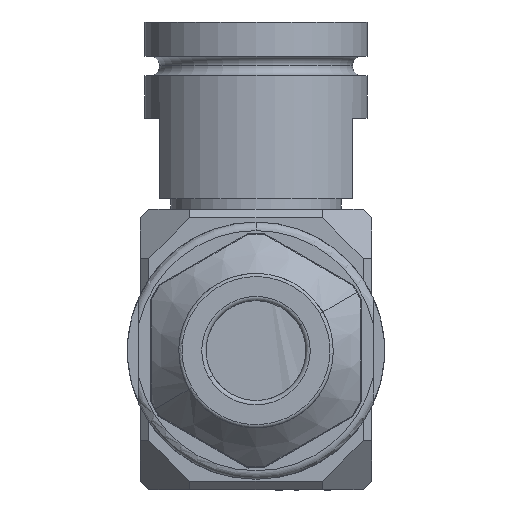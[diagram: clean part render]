
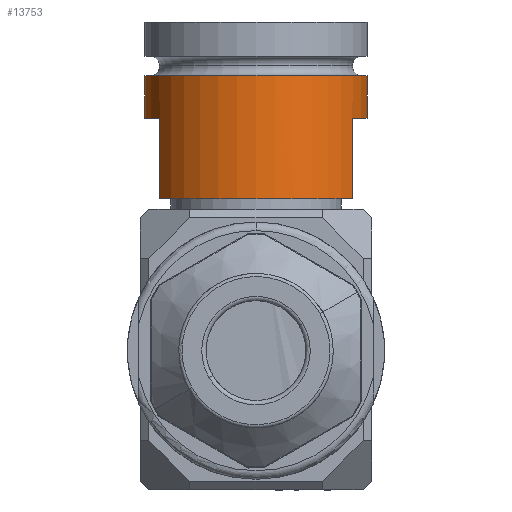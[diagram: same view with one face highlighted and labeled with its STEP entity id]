
A CAD part, front view. The second image highlights one B-rep face of the part: STEP entity #13753.
In plain terms, the highlighted cylindrical face has radius 13.208 mm (diameter 26.416 mm), a partial arc.
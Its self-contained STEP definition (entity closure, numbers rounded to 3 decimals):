
#1334 = LINE ( 'NONE', #20943, #33519 ) ;
#3214 = CIRCLE ( 'NONE', #57145, 13.208 ) ;
#4218 = VERTEX_POINT ( 'NONE', #7624 ) ;
#6387 = CARTESIAN_POINT ( 'NONE',  ( 13.208, 0., -2.972 ) ) ;
#6789 = AXIS2_PLACEMENT_3D ( 'NONE', #39555, #30311, #53338 ) ;
#6817 = DIRECTION ( 'NONE',  ( 0., 0., -1. ) ) ;
#7523 = DIRECTION ( 'NONE',  ( 0., 0., -1. ) ) ;
#7624 = CARTESIAN_POINT ( 'NONE',  ( 11.43, -6.619, -2.972 ) ) ;
#8069 = DIRECTION ( 'NONE',  ( 0., 0., -1. ) ) ;
#8147 = CARTESIAN_POINT ( 'NONE',  ( 0., 0., -2.972 ) ) ;
#8851 = VECTOR ( 'NONE', #8948, 1000. ) ;
#8948 = DIRECTION ( 'NONE',  ( 0., 0., -1. ) ) ;
#9453 = CARTESIAN_POINT ( 'NONE',  ( -13.208, 0., -2.972 ) ) ;
#10060 = DIRECTION ( 'NONE',  ( 0., 0., -1. ) ) ;
#10782 = ORIENTED_EDGE ( 'NONE', *, *, #49624, .T. ) ;
#11980 = EDGE_CURVE ( 'NONE', #52018, #29933, #39786, .T. ) ;
#13753 = ADVANCED_FACE ( 'NONE', ( #44091 ), #45006, .T. ) ;
#15009 = AXIS2_PLACEMENT_3D ( 'NONE', #21645, #7523, #26269 ) ;
#15273 = VERTEX_POINT ( 'NONE', #9453 ) ;
#15754 = ORIENTED_EDGE ( 'NONE', *, *, #25848, .F. ) ;
#16548 = CARTESIAN_POINT ( 'NONE',  ( 13.208, 0., 2.108 ) ) ;
#20943 = CARTESIAN_POINT ( 'NONE',  ( -13.208, 0., 8.458 ) ) ;
#21645 = CARTESIAN_POINT ( 'NONE',  ( 0., 0., 8.458 ) ) ;
#22957 = EDGE_CURVE ( 'NONE', #59872, #4218, #3214, .T. ) ;
#23966 = LINE ( 'NONE', #45842, #60027 ) ;
#24906 = CARTESIAN_POINT ( 'NONE',  ( 11.43, -6.619, -12.497 ) ) ;
#25067 = AXIS2_PLACEMENT_3D ( 'NONE', #40588, #36579, #58991 ) ;
#25380 = ORIENTED_EDGE ( 'NONE', *, *, #11980, .F. ) ;
#25848 = EDGE_CURVE ( 'NONE', #58467, #59872, #33711, .T. ) ;
#26269 = DIRECTION ( 'NONE',  ( 1., 0., 0. ) ) ;
#26633 = ORIENTED_EDGE ( 'NONE', *, *, #54115, .F. ) ;
#29353 = CIRCLE ( 'NONE', #6789, 13.208 ) ;
#29589 = ORIENTED_EDGE ( 'NONE', *, *, #35021, .T. ) ;
#29933 = VERTEX_POINT ( 'NONE', #47785 ) ;
#30311 = DIRECTION ( 'NONE',  ( 0., 0., -1. ) ) ;
#31186 = CARTESIAN_POINT ( 'NONE',  ( -13.208, 0., 2.108 ) ) ;
#31670 = CARTESIAN_POINT ( 'NONE',  ( -11.43, -6.619, -2.972 ) ) ;
#31783 = DIRECTION ( 'NONE',  ( -1., 0., 0. ) ) ;
#32490 = CARTESIAN_POINT ( 'NONE',  ( 13.208, 0., 8.458 ) ) ;
#32519 = CIRCLE ( 'NONE', #33524, 13.208 ) ;
#33519 = VECTOR ( 'NONE', #6817, 1000. ) ;
#33524 = AXIS2_PLACEMENT_3D ( 'NONE', #8147, #50802, #31783 ) ;
#33711 = LINE ( 'NONE', #32490, #45451 ) ;
#34142 = VERTEX_POINT ( 'NONE', #31186 ) ;
#35021 = EDGE_CURVE ( 'NONE', #34142, #15273, #1334, .T. ) ;
#35703 = DIRECTION ( 'NONE',  ( 1., 0., 0. ) ) ;
#36579 = DIRECTION ( 'NONE',  ( 0., 0., -1. ) ) ;
#37002 = EDGE_CURVE ( 'NONE', #4218, #52018, #23966, .T. ) ;
#37575 = EDGE_LOOP ( 'NONE', ( #53827, #29589, #26633, #10782, #25380, #51855, #37600, #15754 ) ) ;
#37600 = ORIENTED_EDGE ( 'NONE', *, *, #22957, .F. ) ;
#39413 = DIRECTION ( 'NONE',  ( 0., 0., -1. ) ) ;
#39555 = CARTESIAN_POINT ( 'NONE',  ( 0., 0., 2.108 ) ) ;
#39786 = CIRCLE ( 'NONE', #25067, 13.208 ) ;
#40588 = CARTESIAN_POINT ( 'NONE',  ( 0., 0., -12.497 ) ) ;
#42190 = VERTEX_POINT ( 'NONE', #58488 ) ;
#42482 = EDGE_CURVE ( 'NONE', #58467, #34142, #29353, .T. ) ;
#44091 = FACE_OUTER_BOUND ( 'NONE', #37575, .T. ) ;
#45006 = CYLINDRICAL_SURFACE ( 'NONE', #15009, 13.208 ) ;
#45451 = VECTOR ( 'NONE', #10060, 1000. ) ;
#45842 = CARTESIAN_POINT ( 'NONE',  ( 11.43, -6.619, -2.972 ) ) ;
#47785 = CARTESIAN_POINT ( 'NONE',  ( -11.43, -6.619, -12.497 ) ) ;
#49624 = EDGE_CURVE ( 'NONE', #42190, #29933, #56216, .T. ) ;
#50802 = DIRECTION ( 'NONE',  ( 0., 0., -1. ) ) ;
#51855 = ORIENTED_EDGE ( 'NONE', *, *, #37002, .F. ) ;
#52018 = VERTEX_POINT ( 'NONE', #24906 ) ;
#53338 = DIRECTION ( 'NONE',  ( 1., 0., 0. ) ) ;
#53827 = ORIENTED_EDGE ( 'NONE', *, *, #42482, .T. ) ;
#54115 = EDGE_CURVE ( 'NONE', #42190, #15273, #32519, .T. ) ;
#56216 = LINE ( 'NONE', #31670, #8851 ) ;
#57145 = AXIS2_PLACEMENT_3D ( 'NONE', #58443, #39413, #35703 ) ;
#58443 = CARTESIAN_POINT ( 'NONE',  ( 0., 0., -2.972 ) ) ;
#58467 = VERTEX_POINT ( 'NONE', #16548 ) ;
#58488 = CARTESIAN_POINT ( 'NONE',  ( -11.43, -6.619, -2.972 ) ) ;
#58991 = DIRECTION ( 'NONE',  ( 1., 0., 0. ) ) ;
#59872 = VERTEX_POINT ( 'NONE', #6387 ) ;
#60027 = VECTOR ( 'NONE', #8069, 1000. ) ;
